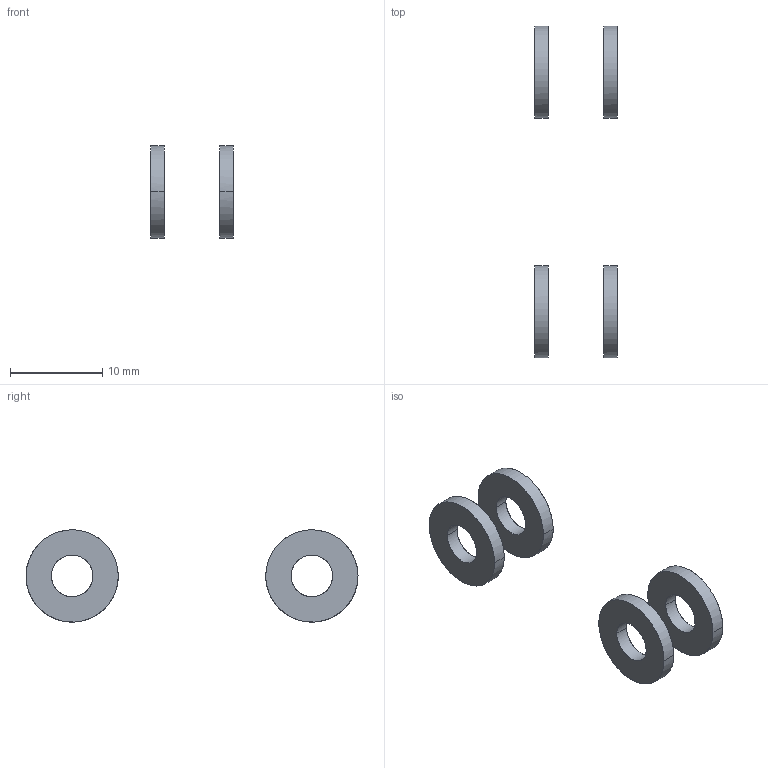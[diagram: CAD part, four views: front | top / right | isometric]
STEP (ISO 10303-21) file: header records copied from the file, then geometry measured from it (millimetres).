
FILE_DESCRIPTION(/* description */ (''),/* implementation_level */ '2;1');
FILE_NAME(/* name */ '6.y-drive#6.4#PACK-SPWFN4',/* time_stamp */ '2014-12-01T20:14:37+01:00',/* author */ (''),/* organization */ (''),/* preprocessor_version */ 'ST-DEVELOPER v14',/* originating_system */ '',/* authorisation */ '');
FILE_SCHEMA (('AUTOMOTIVE_DESIGN'));
Length unit declared in the file: millimetre
Products named in the file (2): Document; washer DIN9021-like, form G, M4
Assembly tree (4 placements, depth 2):
  Document
    washer DIN9021-like, form G, M4  x4
Bounding box: 9 x 36 x 9.98 mm (x, y, z)
Surface area: 775.5 mm2 (no closed solid volume)
Topology: 0 solids, 24 shells, 24 faces, 80 edges, 80 vertices
Faces by surface type: bspline 16, plane 8
Entity records: 567 total; most frequent: CARTESIAN_POINT 261, B_SPLINE_CURVE_WITH_KNOTS 24, ORIENTED_EDGE 20, PCURVE 20, DEFINITIONAL_REPRESENTATION 20, SURFACE_CURVE 20, EDGE_CURVE 20, VERTEX_POINT 20
